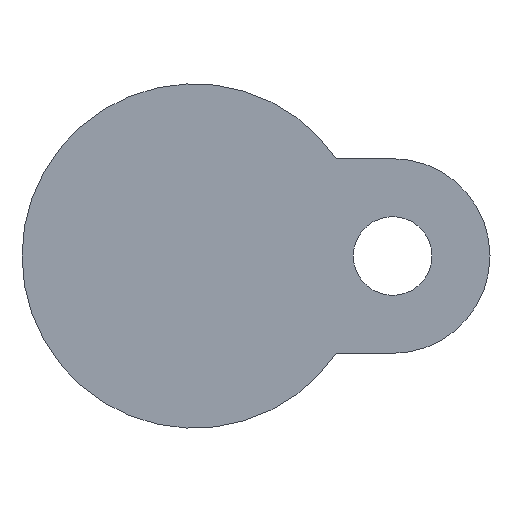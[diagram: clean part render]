
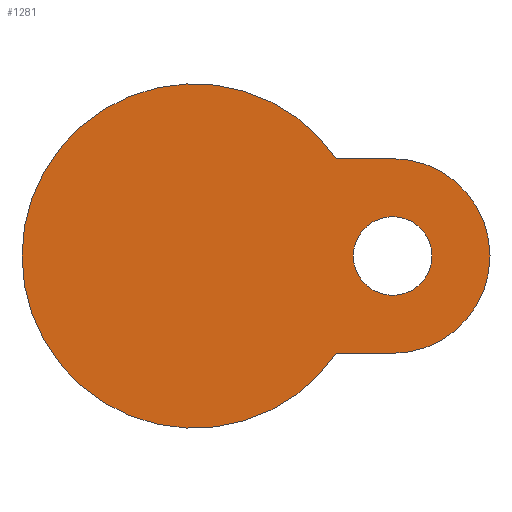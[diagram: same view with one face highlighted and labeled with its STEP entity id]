
A CAD part, front view. The second image highlights one B-rep face of the part: STEP entity #1281.
In plain terms, the highlighted planar face has unit normal (0, -1, 0).
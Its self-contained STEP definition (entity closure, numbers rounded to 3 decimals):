
#20 = VERTEX_POINT ( 'NONE', #778 ) ;
#34 = VERTEX_POINT ( 'NONE', #80 ) ;
#62 = CARTESIAN_POINT ( 'NONE',  ( 13.5, -16., 13. ) ) ;
#80 = CARTESIAN_POINT ( 'NONE',  ( 18.974, -16., -13. ) ) ;
#114 = CARTESIAN_POINT ( 'NONE',  ( 26.5, -16., -13. ) ) ;
#125 = DIRECTION ( 'NONE',  ( 1., 0., 0. ) ) ;
#132 = FACE_OUTER_BOUND ( 'NONE', #692, .T. ) ;
#147 = EDGE_CURVE ( 'NONE', #20, #34, #284, .T. ) ;
#190 = CIRCLE ( 'NONE', #1333, 5.25 ) ;
#200 = DIRECTION ( 'NONE',  ( -1., 0., 0. ) ) ;
#212 = EDGE_CURVE ( 'NONE', #1419, #1191, #1047, .T. ) ;
#240 = DIRECTION ( 'NONE',  ( 0., -1., 0. ) ) ;
#251 = ORIENTED_EDGE ( 'NONE', *, *, #760, .F. ) ;
#260 = CARTESIAN_POINT ( 'NONE',  ( 13.5, -16., -13. ) ) ;
#278 = AXIS2_PLACEMENT_3D ( 'NONE', #1358, #1006, #200 ) ;
#284 = CIRCLE ( 'NONE', #335, 23. ) ;
#335 = AXIS2_PLACEMENT_3D ( 'NONE', #1376, #240, #1246 ) ;
#385 = DIRECTION ( 'NONE',  ( -1., 0., 0. ) ) ;
#396 = VECTOR ( 'NONE', #753, 1000. ) ;
#447 = CARTESIAN_POINT ( 'NONE',  ( 21.25, -16., 0. ) ) ;
#481 = DIRECTION ( 'NONE',  ( 0., -1., 0. ) ) ;
#518 = DIRECTION ( 'NONE',  ( 1., 0., 0. ) ) ;
#526 = EDGE_CURVE ( 'NONE', #865, #1031, #190, .T. ) ;
#530 = ORIENTED_EDGE ( 'NONE', *, *, #1450, .T. ) ;
#579 = ORIENTED_EDGE ( 'NONE', *, *, #147, .T. ) ;
#582 = CARTESIAN_POINT ( 'NONE',  ( 23., -16., 0. ) ) ;
#586 = ORIENTED_EDGE ( 'NONE', *, *, #644, .F. ) ;
#616 = VECTOR ( 'NONE', #385, 1000. ) ;
#637 = DIRECTION ( 'NONE',  ( 0., 1., 0. ) ) ;
#644 = EDGE_CURVE ( 'NONE', #1191, #34, #841, .T. ) ;
#692 = EDGE_LOOP ( 'NONE', ( #579, #586, #744, #251 ) ) ;
#706 = DIRECTION ( 'NONE',  ( -1., 0., 0. ) ) ;
#710 = FACE_BOUND ( 'NONE', #916, .T. ) ;
#730 = CARTESIAN_POINT ( 'NONE',  ( 31.75, -16., 0. ) ) ;
#744 = ORIENTED_EDGE ( 'NONE', *, *, #212, .F. ) ;
#753 = DIRECTION ( 'NONE',  ( 1., 0., 0. ) ) ;
#760 = EDGE_CURVE ( 'NONE', #20, #1419, #1206, .T. ) ;
#778 = CARTESIAN_POINT ( 'NONE',  ( 18.974, -16., 13. ) ) ;
#841 = LINE ( 'NONE', #260, #616 ) ;
#852 = CIRCLE ( 'NONE', #278, 5.25 ) ;
#865 = VERTEX_POINT ( 'NONE', #447 ) ;
#869 = CARTESIAN_POINT ( 'NONE',  ( 26.5, -16., 0. ) ) ;
#916 = EDGE_LOOP ( 'NONE', ( #1286, #530 ) ) ;
#929 = DIRECTION ( 'NONE',  ( 0., 1., 0. ) ) ;
#1006 = DIRECTION ( 'NONE',  ( 0., 1., 0. ) ) ;
#1031 = VERTEX_POINT ( 'NONE', #730 ) ;
#1047 = CIRCLE ( 'NONE', #1309, 13. ) ;
#1072 = CARTESIAN_POINT ( 'NONE',  ( 26.5, -16., 13. ) ) ;
#1191 = VERTEX_POINT ( 'NONE', #114 ) ;
#1206 = LINE ( 'NONE', #62, #396 ) ;
#1246 = DIRECTION ( 'NONE',  ( 1., 0., 0. ) ) ;
#1254 = AXIS2_PLACEMENT_3D ( 'NONE', #582, #481, #125 ) ;
#1281 = ADVANCED_FACE ( 'NONE', ( #710, #132 ), #1391, .T. ) ;
#1286 = ORIENTED_EDGE ( 'NONE', *, *, #526, .T. ) ;
#1309 = AXIS2_PLACEMENT_3D ( 'NONE', #869, #637, #518 ) ;
#1333 = AXIS2_PLACEMENT_3D ( 'NONE', #1403, #929, #706 ) ;
#1358 = CARTESIAN_POINT ( 'NONE',  ( 26.5, -16., 0. ) ) ;
#1376 = CARTESIAN_POINT ( 'NONE',  ( 0., -16., 0. ) ) ;
#1391 = PLANE ( 'NONE',  #1254 ) ;
#1403 = CARTESIAN_POINT ( 'NONE',  ( 26.5, -16., 0. ) ) ;
#1419 = VERTEX_POINT ( 'NONE', #1072 ) ;
#1450 = EDGE_CURVE ( 'NONE', #1031, #865, #852, .T. ) ;
